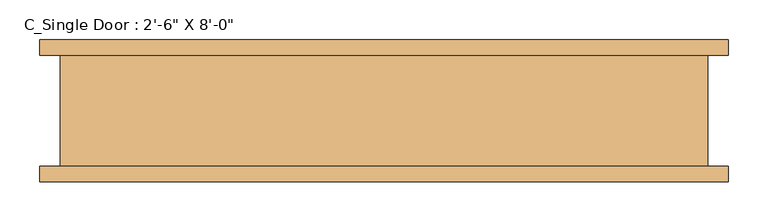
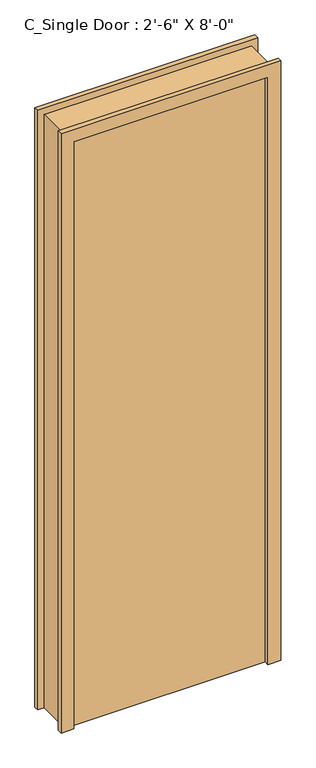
"""IFC4 building model written with IfcOpenShell, lengths in millimetres: door geometry."""

from ifc_helpers import new_model, si_unit, frame, origin, origin_with_axes, place, context, project, spatial, polyline, outline, extrude, source, transform, mapped, element, save


def door_2bbe2976(model_context):
    return source(origin(), model_context, "Body", "SweptSolid", [
        extrude(outline(polyline([(381.0, -69.85), (-381.0, -69.85), (-381.0, -19.05), (381.0, -19.05), (381.0, -69.85)])), origin_with_axes(), (0.0, 0.0, 1.0), 2438.4),
        extrude(outline(polyline([(2438.4, -381.0), (2438.4, 381.0), (0.0, 381.0), (0.0, 431.8), (2489.2, 431.8), (2489.2, -431.8), (0.0, -431.8), (0.0, -381.0), (2438.4, -381.0)])), frame((0.0, -88.9, 0.0), z_axis=(0.0, 1.0, 0.0), x_axis=(0.0, 0.0, 1.0)), (0.0, 0.0, 1.0), 19.05),
        extrude(outline(polyline([(2438.4, -381.0), (2438.4, 381.0), (0.0, 381.0), (0.0, 431.8), (2489.2, 431.8), (2489.2, -431.8), (0.0, -431.8), (0.0, -381.0), (2438.4, -381.0)])), frame((0.0, 69.85, 0.0), z_axis=(0.0, 1.0, 0.0), x_axis=(0.0, 0.0, 1.0)), (0.0, 0.0, 1.0), 19.05),
        extrude(outline(polyline([(0.0, -406.4), (0.0, -381.0), (2438.4, -381.0), (2438.4, 381.0), (0.0, 381.0), (0.0, 406.4), (2463.8, 406.4), (2463.8, -406.4), (0.0, -406.4)])), frame((0.0, -69.85, 0.0), z_axis=(0.0, 1.0, 0.0), x_axis=(0.0, 0.0, 1.0)), (0.0, 0.0, 1.0), 139.7),
    ])


if __name__ == "__main__":
    model = new_model("IFC4")
    model_context = context("Model", 3, world=origin())
    ifc_project = project(units=[si_unit("LENGTHUNIT", "METRE", prefix="MILLI")], contexts=[model_context])
    site = spatial("IfcSite", under=ifc_project)
    building = spatial("IfcBuilding", under=site)
    placement = place(None, origin())
    door_shape = door_2bbe2976(model_context)
    element("IfcDoor", 1, ObjectType="C_Single Door : 2'-6\" X 8'-0\"", at=placement, inside=building, context=model_context, shape_type="MappedRepresentation", body=[
        mapped(door_shape, transform((0.0, 0.0, 0.0), x_axis=(1.0, 0.0, 0.0), y_axis=(0.0, 1.0, 0.0), z_axis=(0.0, 0.0, 1.0))),
    ])
    save(model, "model.ifc")
